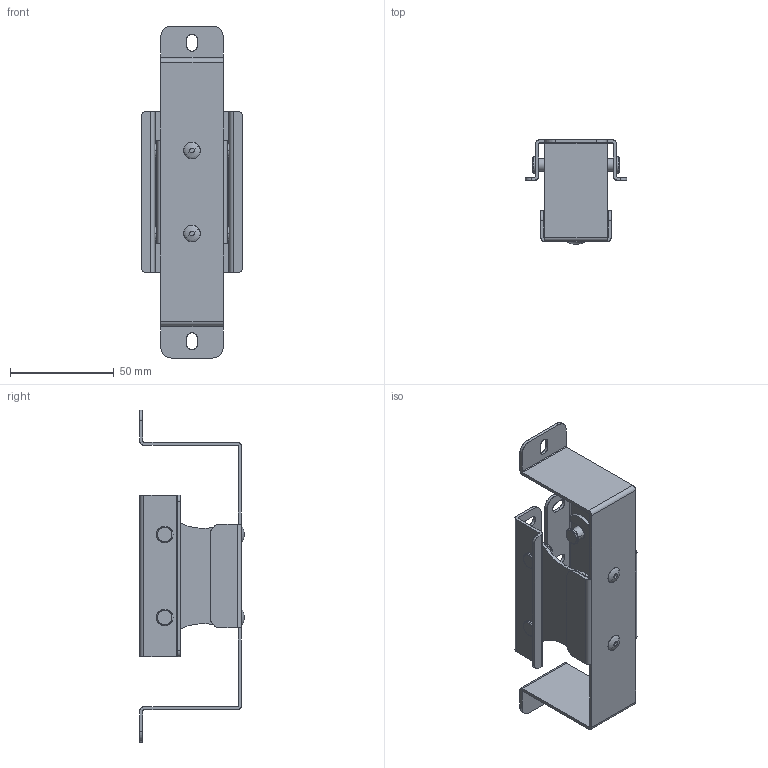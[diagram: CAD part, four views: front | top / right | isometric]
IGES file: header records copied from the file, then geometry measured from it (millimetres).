
Start section: SolidWorks IGES file using analytic representation for surfaces
Bounding box: 49 x 50.3 x 160 mm (x, y, z)
Surface area: 44087.6 mm2 (no closed solid volume)
Topology: 0 solids, 0 shells, 268 faces, 3840 edges, 3840 vertices
Faces by surface type: revolution 160, bspline 108
